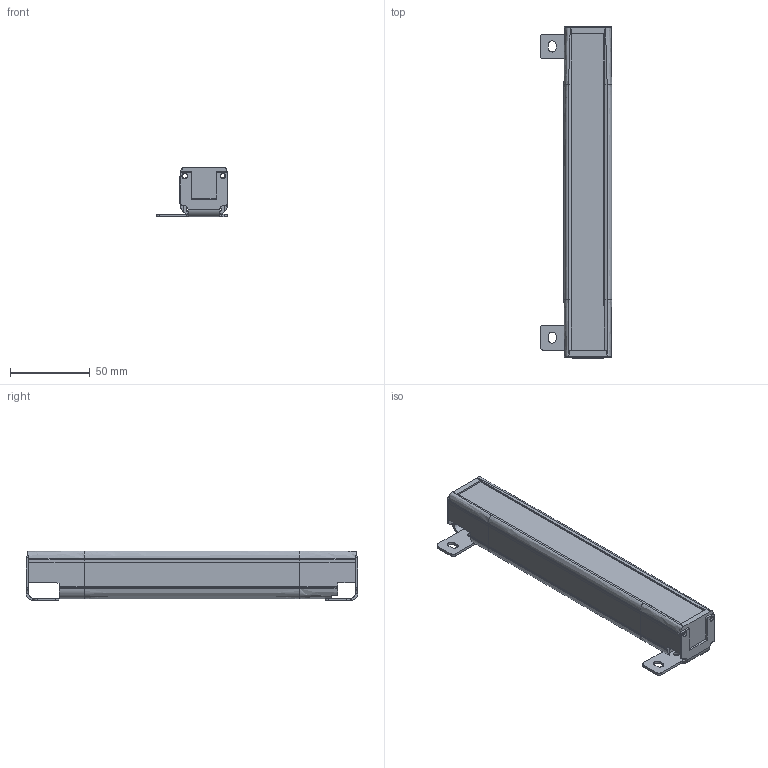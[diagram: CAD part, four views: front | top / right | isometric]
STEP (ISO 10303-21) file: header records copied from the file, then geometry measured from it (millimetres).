
FILE_DESCRIPTION(/* description */ (''),/* implementation_level */ '2;1');
FILE_NAME(/* name */ '2010（30X30）.stp',/* time_stamp */ '2020-06-08T17:58:51+08:00',/* author */ (''),/* organization */ (''),/* preprocessor_version */ 'ST-DEVELOPER v16',/* originating_system */ 'SIEMENS PLM Software NX 10.0',/* authorisation */ '');
FILE_SCHEMA (('AP203_CONFIGURATION_CONTROLLED_3D_DESIGN_OF_MECHANICAL_PARTS_AND_ASSEMBLIES_MIM_LF { 1 0 10303 403 2 1 2}'));
Length unit declared in the file: millimetre
Products named in the file (1): Admi184CCD9Epmcg
Bounding box: 44.89 x 208.4 x 31.39 mm (x, y, z)
Volume: 64170.9 mm3; surface area: 71717 mm2
Topology: 6 solids, 6 shells, 441 faces, 1311 edges, 871 vertices
Faces by surface type: plane 256, cylinder 132, cone 32, bspline 14, extrusion 7
Full cylindrical faces by diameter (mm): 1.5 x2, 3.2 x8, 3.5 x8
Entity records: 15667 total; most frequent: CARTESIAN_POINT 3860, ORIENTED_EDGE 2528, DIRECTION 2314, EDGE_CURVE 1264, VECTOR 856, VERTEX_POINT 855, LINE 849, AXIS2_PLACEMENT_3D 729
